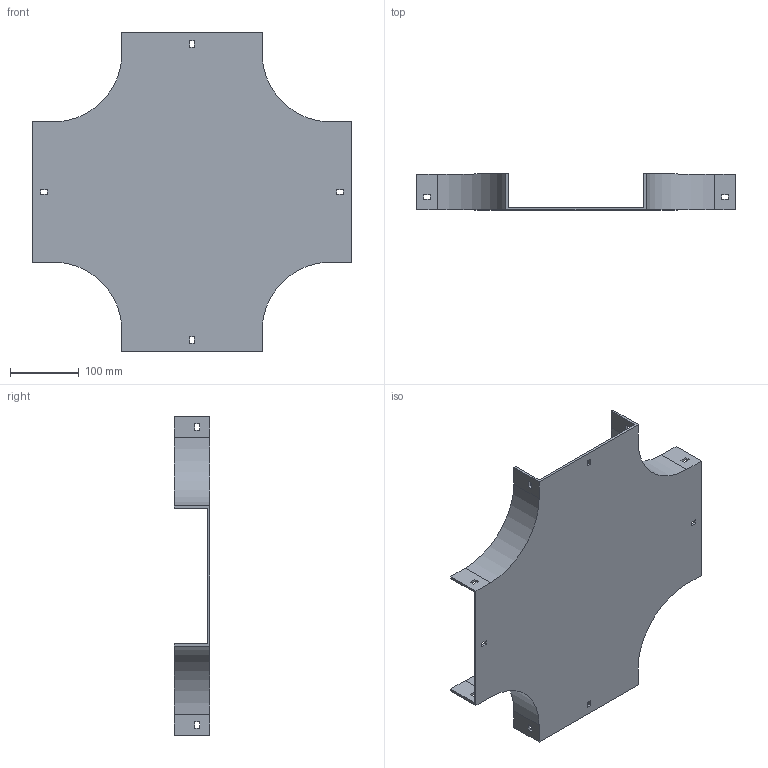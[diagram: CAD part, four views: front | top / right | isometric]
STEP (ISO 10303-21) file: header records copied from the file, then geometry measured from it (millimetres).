
FILE_DESCRIPTION (( 'STEP AP214' ), '1' );
FILE_NAME ('17F1B200.step', '2025-02-21T13:05:43', ( '' ), ( '' ), 'SwSTEP 2.0', 'SolidWorks 2023', '' );
FILE_SCHEMA (( 'AUTOMOTIVE_DESIGN' ));
Length unit declared in the file: millimetre
Products named in the file (1): 17F1B200
Bounding box: 464 x 52 x 464 mm (x, y, z)
Volume: 693464.8 mm3; surface area: 404904.7 mm2
Topology: 1 solids, 1 shells, 82 faces, 240 edges, 160 vertices
Faces by surface type: plane 74, cylinder 8
Entity records: 2751 total; most frequent: CARTESIAN_POINT 483, ORIENTED_EDGE 480, DIRECTION 422, EDGE_CURVE 240, VECTOR 224, LINE 224, VERTEX_POINT 160, EDGE_LOOP 106
